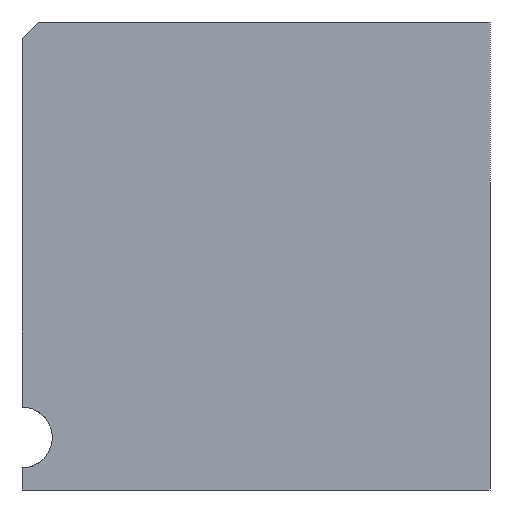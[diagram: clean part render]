
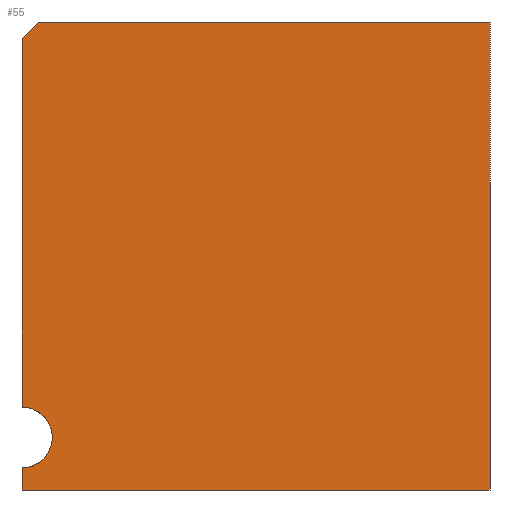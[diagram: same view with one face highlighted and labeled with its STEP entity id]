
A CAD part, left-side view. The second image highlights one B-rep face of the part: STEP entity #55.
In plain terms, the highlighted planar face has unit normal (-1, 0, 0).
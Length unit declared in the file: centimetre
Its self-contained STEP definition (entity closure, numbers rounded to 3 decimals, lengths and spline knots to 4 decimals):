
#17 = EDGE_CURVE ( 'NONE', #1396, #53, #620, .T. ) ;
#23 = DIRECTION ( 'NONE',  ( 0., 0., -1. ) ) ;
#46 = EDGE_CURVE ( 'NONE', #1353, #304, #401, .T. ) ;
#53 = VERTEX_POINT ( 'NONE', #633 ) ;
#55 = ADVANCED_FACE ( 'NONE', ( #1414 ), #182, .F. ) ;
#56 = DIRECTION ( 'NONE',  ( 0., -1., 0. ) ) ;
#83 = EDGE_CURVE ( 'NONE', #1008, #582, #737, .T. ) ;
#169 = CARTESIAN_POINT ( 'NONE',  ( 0., 1000., 1000. ) ) ;
#182 = PLANE ( 'NONE',  #1047 ) ;
#256 = CARTESIAN_POINT ( 'NONE',  ( 0., 1000., 964.6995 ) ) ;
#275 = VECTOR ( 'NONE', #23, 100. ) ;
#304 = VERTEX_POINT ( 'NONE', #653 ) ;
#308 = CARTESIAN_POINT ( 'NONE',  ( 0., 1000., 0. ) ) ;
#341 = LINE ( 'NONE', #906, #275 ) ;
#396 = CARTESIAN_POINT ( 'NONE',  ( 0., 1000., 1000. ) ) ;
#401 = LINE ( 'NONE', #396, #461 ) ;
#407 = DIRECTION ( 'NONE',  ( 1., 0., 0. ) ) ;
#408 = CARTESIAN_POINT ( 'NONE',  ( 0., 1000., 47.3573 ) ) ;
#461 = VECTOR ( 'NONE', #1154, 100. ) ;
#503 = CARTESIAN_POINT ( 'NONE',  ( 0., 1000., 1000. ) ) ;
#508 = CARTESIAN_POINT ( 'NONE',  ( 0., 964.6995, 1000. ) ) ;
#514 = VERTEX_POINT ( 'NONE', #1223 ) ;
#539 = EDGE_CURVE ( 'NONE', #53, #514, #341, .T. ) ;
#541 = DIRECTION ( 'NONE',  ( 0., 0., -1. ) ) ;
#579 = ORIENTED_EDGE ( 'NONE', *, *, #539, .F. ) ;
#582 = VERTEX_POINT ( 'NONE', #679 ) ;
#620 = LINE ( 'NONE', #503, #1201 ) ;
#633 = CARTESIAN_POINT ( 'NONE',  ( 0., 0., 1000. ) ) ;
#652 = DIRECTION ( 'NONE',  ( 1., 0., 0. ) ) ;
#653 = CARTESIAN_POINT ( 'NONE',  ( 0., 1000., 177.0882 ) ) ;
#679 = CARTESIAN_POINT ( 'NONE',  ( 0., 1000., 0. ) ) ;
#737 = LINE ( 'NONE', #745, #1272 ) ;
#745 = CARTESIAN_POINT ( 'NONE',  ( 0., 1000., 1000. ) ) ;
#753 = DIRECTION ( 'NONE',  ( 0., -1., 0. ) ) ;
#761 = CARTESIAN_POINT ( 'NONE',  ( 0., 1000., 112.2227 ) ) ;
#786 = VECTOR ( 'NONE', #1113, 100. ) ;
#799 = ORIENTED_EDGE ( 'NONE', *, *, #46, .T. ) ;
#832 = CIRCLE ( 'NONE', #1174, 64.8655 ) ;
#861 = ORIENTED_EDGE ( 'NONE', *, *, #1123, .T. ) ;
#906 = CARTESIAN_POINT ( 'NONE',  ( 0., 0., 1000. ) ) ;
#958 = DIRECTION ( 'NONE',  ( 0., 0., -1. ) ) ;
#972 = DIRECTION ( 'NONE',  ( 0., 0., -1. ) ) ;
#995 = VECTOR ( 'NONE', #753, 100. ) ;
#1008 = VERTEX_POINT ( 'NONE', #408 ) ;
#1036 = EDGE_CURVE ( 'NONE', #304, #1008, #832, .T. ) ;
#1047 = AXIS2_PLACEMENT_3D ( 'NONE', #169, #407, #958 ) ;
#1061 = EDGE_CURVE ( 'NONE', #582, #514, #1302, .T. ) ;
#1065 = ORIENTED_EDGE ( 'NONE', *, *, #83, .T. ) ;
#1106 = LINE ( 'NONE', #1437, #786 ) ;
#1113 = DIRECTION ( 'NONE',  ( 0., 0.707, -0.707 ) ) ;
#1123 = EDGE_CURVE ( 'NONE', #1396, #1353, #1106, .T. ) ;
#1154 = DIRECTION ( 'NONE',  ( 0., 0., -1. ) ) ;
#1169 = ORIENTED_EDGE ( 'NONE', *, *, #1036, .T. ) ;
#1174 = AXIS2_PLACEMENT_3D ( 'NONE', #761, #652, #541 ) ;
#1201 = VECTOR ( 'NONE', #56, 100. ) ;
#1223 = CARTESIAN_POINT ( 'NONE',  ( 0., 0., 0. ) ) ;
#1256 = EDGE_LOOP ( 'NONE', ( #799, #1169, #1065, #1427, #579, #1306, #861 ) ) ;
#1272 = VECTOR ( 'NONE', #972, 100. ) ;
#1302 = LINE ( 'NONE', #308, #995 ) ;
#1306 = ORIENTED_EDGE ( 'NONE', *, *, #17, .F. ) ;
#1353 = VERTEX_POINT ( 'NONE', #256 ) ;
#1396 = VERTEX_POINT ( 'NONE', #508 ) ;
#1414 = FACE_OUTER_BOUND ( 'NONE', #1256, .T. ) ;
#1427 = ORIENTED_EDGE ( 'NONE', *, *, #1061, .T. ) ;
#1437 = CARTESIAN_POINT ( 'NONE',  ( 0., 964.6995, 1000. ) ) ;
